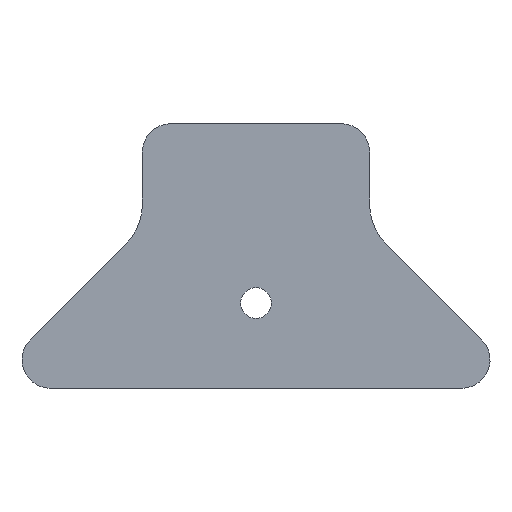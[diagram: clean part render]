
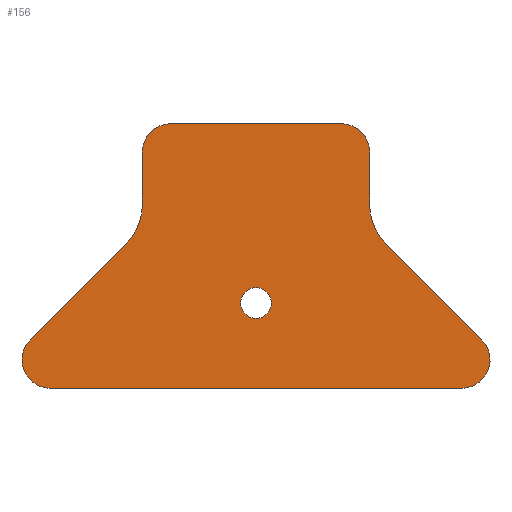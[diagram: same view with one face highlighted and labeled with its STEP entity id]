
A CAD part, front view. The second image highlights one B-rep face of the part: STEP entity #156.
In plain terms, the highlighted planar face has unit normal (0, -1, 0).
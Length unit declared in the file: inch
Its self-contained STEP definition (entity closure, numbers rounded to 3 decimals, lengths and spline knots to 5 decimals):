
#5 = VERTEX_POINT ( 'NONE', #371 ) ;
#9 = CARTESIAN_POINT ( 'NONE',  ( 0.5, 0., 0.33237 ) ) ;
#15 = ORIENTED_EDGE ( 'NONE', *, *, #167, .F. ) ;
#29 = DIRECTION ( 'NONE',  ( 0., -1., 0. ) ) ;
#31 = CARTESIAN_POINT ( 'NONE',  ( 0., 0., -0.40011 ) ) ;
#32 = ORIENTED_EDGE ( 'NONE', *, *, #325, .F. ) ;
#35 = CARTESIAN_POINT ( 'NONE',  ( 0., 0., -0.70711 ) ) ;
#56 = VERTEX_POINT ( 'NONE', #462 ) ;
#73 = ORIENTED_EDGE ( 'NONE', *, *, #329, .F. ) ;
#80 = LINE ( 'NONE', #1027, #480 ) ;
#85 = EDGE_CURVE ( 'NONE', #1065, #917, #965, .T. ) ;
#92 = VECTOR ( 'NONE', #889, 39.37008 ) ;
#93 = CIRCLE ( 'NONE', #647, 0.125 ) ;
#135 = DIRECTION ( 'NONE',  ( 0., 1., 0. ) ) ;
#156 = ADVANCED_FACE ( 'NONE', ( #198, #853 ), #984, .F. ) ;
#157 = CARTESIAN_POINT ( 'NONE',  ( 0.5, 0., 0. ) ) ;
#167 = EDGE_CURVE ( 'NONE', #406, #928, #601, .T. ) ;
#169 = EDGE_CURVE ( 'NONE', #271, #446, #415, .T. ) ;
#170 = CARTESIAN_POINT ( 'NONE',  ( -0.375, 0., 0.33237 ) ) ;
#191 = VERTEX_POINT ( 'NONE', #1066 ) ;
#194 = CARTESIAN_POINT ( 'NONE',  ( 0., 0., -0.33211 ) ) ;
#198 = FACE_OUTER_BOUND ( 'NONE', #687, .T. ) ;
#210 = ORIENTED_EDGE ( 'NONE', *, *, #472, .F. ) ;
#231 = DIRECTION ( 'NONE',  ( 0., 1., 0. ) ) ;
#233 = DIRECTION ( 'NONE',  ( 0., 0., -1. ) ) ;
#245 = DIRECTION ( 'NONE',  ( 0., 0., -1. ) ) ;
#247 = CIRCLE ( 'NONE', #267, 0.125 ) ;
#254 = VERTEX_POINT ( 'NONE', #493 ) ;
#263 = VECTOR ( 'NONE', #423, 39.37008 ) ;
#267 = AXIS2_PLACEMENT_3D ( 'NONE', #617, #135, #704 ) ;
#271 = VERTEX_POINT ( 'NONE', #9 ) ;
#281 = DIRECTION ( 'NONE',  ( 0., 0., 1. ) ) ;
#284 = DIRECTION ( 'NONE',  ( 0.707, 0., -0.707 ) ) ;
#288 = DIRECTION ( 'NONE',  ( 0., 1., 0. ) ) ;
#291 = ORIENTED_EDGE ( 'NONE', *, *, #437, .F. ) ;
#309 = CARTESIAN_POINT ( 'NONE',  ( -0.99372, 0., -0.49372 ) ) ;
#316 = LINE ( 'NONE', #35, #927 ) ;
#317 = CARTESIAN_POINT ( 'NONE',  ( 0., 0., 0. ) ) ;
#320 = DIRECTION ( 'NONE',  ( 0., -1., 0. ) ) ;
#322 = ORIENTED_EDGE ( 'NONE', *, *, #505, .F. ) ;
#325 = EDGE_CURVE ( 'NONE', #191, #56, #696, .T. ) ;
#329 = EDGE_CURVE ( 'NONE', #610, #629, #727, .T. ) ;
#333 = ORIENTED_EDGE ( 'NONE', *, *, #85, .F. ) ;
#339 = CIRCLE ( 'NONE', #356, 0.25 ) ;
#356 = AXIS2_PLACEMENT_3D ( 'NONE', #513, #29, #590 ) ;
#361 = DIRECTION ( 'NONE',  ( 0., 1., 0. ) ) ;
#370 = DIRECTION ( 'NONE',  ( 0., -1., 0. ) ) ;
#371 = CARTESIAN_POINT ( 'NONE',  ( 0.90533, 0., -0.70711 ) ) ;
#406 = VERTEX_POINT ( 'NONE', #31 ) ;
#415 = LINE ( 'NONE', #157, #625 ) ;
#423 = DIRECTION ( 'NONE',  ( 0., 0., 1. ) ) ;
#437 = EDGE_CURVE ( 'NONE', #928, #406, #839, .T. ) ;
#438 = CARTESIAN_POINT ( 'NONE',  ( 0.5, 0., 0.10355 ) ) ;
#446 = VERTEX_POINT ( 'NONE', #438 ) ;
#454 = VECTOR ( 'NONE', #669, 39.37008 ) ;
#462 = CARTESIAN_POINT ( 'NONE',  ( -0.5, 0., 0.33237 ) ) ;
#472 = EDGE_CURVE ( 'NONE', #254, #5, #993, .T. ) ;
#477 = DIRECTION ( 'NONE',  ( 0., 0., 1. ) ) ;
#480 = VECTOR ( 'NONE', #284, 39.37008 ) ;
#493 = CARTESIAN_POINT ( 'NONE',  ( 0.99372, 0., -0.49372 ) ) ;
#505 = EDGE_CURVE ( 'NONE', #509, #1065, #962, .T. ) ;
#509 = VERTEX_POINT ( 'NONE', #525 ) ;
#513 = CARTESIAN_POINT ( 'NONE',  ( -0.75, 0., 0.10355 ) ) ;
#525 = CARTESIAN_POINT ( 'NONE',  ( -0.90533, 0., -0.70711 ) ) ;
#536 = CIRCLE ( 'NONE', #1067, 0.25 ) ;
#544 = EDGE_CURVE ( 'NONE', #446, #642, #536, .T. ) ;
#558 = AXIS2_PLACEMENT_3D ( 'NONE', #194, #776, #281 ) ;
#575 = AXIS2_PLACEMENT_3D ( 'NONE', #813, #320, #900 ) ;
#583 = CARTESIAN_POINT ( 'NONE',  ( 0., 0., 0.45737 ) ) ;
#590 = DIRECTION ( 'NONE',  ( 0., 0., 1. ) ) ;
#591 = EDGE_LOOP ( 'NONE', ( #291, #15 ) ) ;
#594 = EDGE_CURVE ( 'NONE', #629, #271, #247, .T. ) ;
#601 = CIRCLE ( 'NONE', #575, 0.068 ) ;
#610 = VERTEX_POINT ( 'NONE', #870 ) ;
#617 = CARTESIAN_POINT ( 'NONE',  ( 0.375, 0., 0.33237 ) ) ;
#625 = VECTOR ( 'NONE', #233, 39.37008 ) ;
#627 = ORIENTED_EDGE ( 'NONE', *, *, #544, .F. ) ;
#628 = AXIS2_PLACEMENT_3D ( 'NONE', #317, #231, #477 ) ;
#629 = VERTEX_POINT ( 'NONE', #792 ) ;
#642 = VERTEX_POINT ( 'NONE', #876 ) ;
#647 = AXIS2_PLACEMENT_3D ( 'NONE', #170, #739, #245 ) ;
#662 = ORIENTED_EDGE ( 'NONE', *, *, #773, .F. ) ;
#668 = AXIS2_PLACEMENT_3D ( 'NONE', #856, #361, #947 ) ;
#669 = DIRECTION ( 'NONE',  ( 1., 0., 0. ) ) ;
#670 = CARTESIAN_POINT ( 'NONE',  ( 0., 0., -0.26411 ) ) ;
#687 = EDGE_LOOP ( 'NONE', ( #662, #32, #1032, #333, #322, #718, #210, #834, #627, #1041, #948, #73 ) ) ;
#696 = LINE ( 'NONE', #1011, #263 ) ;
#704 = DIRECTION ( 'NONE',  ( 0., 0., -1. ) ) ;
#711 = CARTESIAN_POINT ( 'NONE',  ( -0.99372, 0., -0.49372 ) ) ;
#718 = ORIENTED_EDGE ( 'NONE', *, *, #1034, .F. ) ;
#727 = LINE ( 'NONE', #583, #454 ) ;
#739 = DIRECTION ( 'NONE',  ( 0., 1., 0. ) ) ;
#773 = EDGE_CURVE ( 'NONE', #56, #610, #93, .T. ) ;
#776 = DIRECTION ( 'NONE',  ( 0., -1., 0. ) ) ;
#784 = CARTESIAN_POINT ( 'NONE',  ( -0.90533, 0., -0.58211 ) ) ;
#792 = CARTESIAN_POINT ( 'NONE',  ( 0.375, 0., 0.45737 ) ) ;
#813 = CARTESIAN_POINT ( 'NONE',  ( 0., 0., -0.33211 ) ) ;
#834 = ORIENTED_EDGE ( 'NONE', *, *, #1050, .F. ) ;
#837 = CARTESIAN_POINT ( 'NONE',  ( -0.57322, 0., -0.07322 ) ) ;
#839 = CIRCLE ( 'NONE', #558, 0.068 ) ;
#852 = DIRECTION ( 'NONE',  ( -1., 0., 0. ) ) ;
#853 = FACE_BOUND ( 'NONE', #591, .T. ) ;
#856 = CARTESIAN_POINT ( 'NONE',  ( 0.90533, 0., -0.58211 ) ) ;
#863 = DIRECTION ( 'NONE',  ( 0., 0., -1. ) ) ;
#864 = CARTESIAN_POINT ( 'NONE',  ( 0.75, 0., 0.10355 ) ) ;
#870 = CARTESIAN_POINT ( 'NONE',  ( -0.375, 0., 0.45737 ) ) ;
#876 = CARTESIAN_POINT ( 'NONE',  ( 0.57322, 0., -0.07322 ) ) ;
#889 = DIRECTION ( 'NONE',  ( 0.707, 0., 0.707 ) ) ;
#900 = DIRECTION ( 'NONE',  ( 0., 0., 1. ) ) ;
#917 = VERTEX_POINT ( 'NONE', #837 ) ;
#927 = VECTOR ( 'NONE', #852, 39.37008 ) ;
#928 = VERTEX_POINT ( 'NONE', #670 ) ;
#947 = DIRECTION ( 'NONE',  ( 0., 0., 1. ) ) ;
#948 = ORIENTED_EDGE ( 'NONE', *, *, #594, .F. ) ;
#955 = AXIS2_PLACEMENT_3D ( 'NONE', #784, #288, #863 ) ;
#956 = DIRECTION ( 'NONE',  ( 0., 0., 1. ) ) ;
#959 = EDGE_CURVE ( 'NONE', #917, #191, #339, .T. ) ;
#962 = CIRCLE ( 'NONE', #955, 0.125 ) ;
#965 = LINE ( 'NONE', #309, #92 ) ;
#984 = PLANE ( 'NONE',  #628 ) ;
#993 = CIRCLE ( 'NONE', #668, 0.125 ) ;
#1011 = CARTESIAN_POINT ( 'NONE',  ( -0.5, 0., 0. ) ) ;
#1027 = CARTESIAN_POINT ( 'NONE',  ( 0.57322, 0., -0.07322 ) ) ;
#1032 = ORIENTED_EDGE ( 'NONE', *, *, #959, .F. ) ;
#1034 = EDGE_CURVE ( 'NONE', #5, #509, #316, .T. ) ;
#1041 = ORIENTED_EDGE ( 'NONE', *, *, #169, .F. ) ;
#1050 = EDGE_CURVE ( 'NONE', #642, #254, #80, .T. ) ;
#1065 = VERTEX_POINT ( 'NONE', #711 ) ;
#1066 = CARTESIAN_POINT ( 'NONE',  ( -0.5, 0., 0.10355 ) ) ;
#1067 = AXIS2_PLACEMENT_3D ( 'NONE', #864, #370, #956 ) ;
